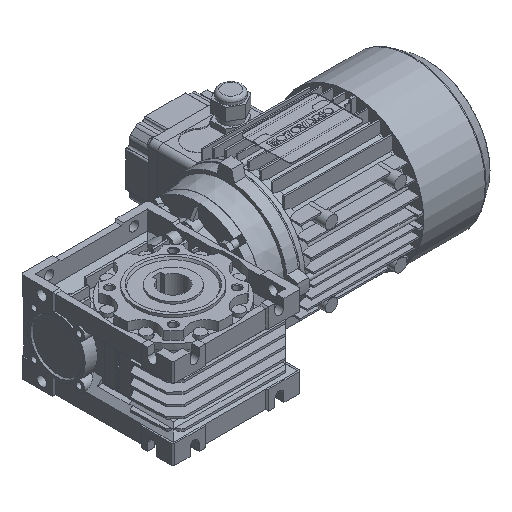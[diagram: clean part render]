
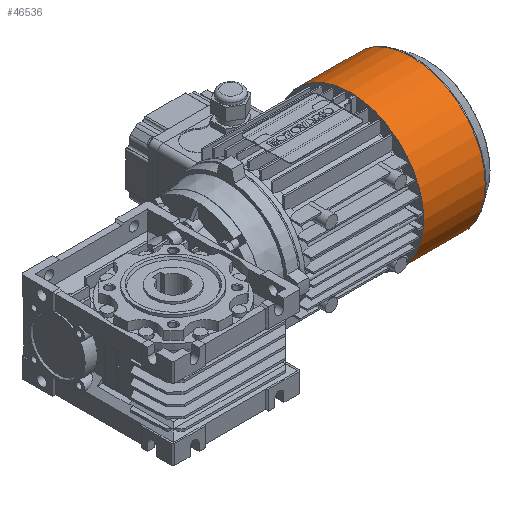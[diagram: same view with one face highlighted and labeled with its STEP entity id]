
A CAD part, isometric view. The second image highlights one B-rep face of the part: STEP entity #46536.
In plain terms, the highlighted cylindrical face has radius 69.45 mm (diameter 138.9 mm), a full revolution.
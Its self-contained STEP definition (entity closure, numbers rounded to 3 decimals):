
#17327=ORIENTED_EDGE('',*,*,#27963,.F.);
#17328=ORIENTED_EDGE('',*,*,#27962,.T.);
#27962=EDGE_CURVE('',#33848,#33848,#37696,.T.);
#27963=EDGE_CURVE('',#33849,#33849,#37697,.T.);
#33848=VERTEX_POINT('',#80548);
#33849=VERTEX_POINT('',#80551);
#37696=CIRCLE('',#57159,69.45);
#37697=CIRCLE('',#57161,69.45);
#39903=EDGE_LOOP('',(#17327));
#39904=EDGE_LOOP('',(#17328));
#42780=FACE_BOUND('',#39903,.T.);
#42781=FACE_BOUND('',#39904,.T.);
#45043=CYLINDRICAL_SURFACE('',#57160,69.45);
#46536=ADVANCED_FACE('',(#42780,#42781),#45043,.T.);
#57159=AXIS2_PLACEMENT_3D('',#80547,#66678,#66679);
#57160=AXIS2_PLACEMENT_3D('',#80549,#66680,#66681);
#57161=AXIS2_PLACEMENT_3D('',#80550,#66682,#66683);
#66678=DIRECTION('',(1.,0.,0.));
#66679=DIRECTION('',(0.,0.,-1.));
#66680=DIRECTION('',(1.,0.,0.));
#66681=DIRECTION('',(0.,0.,-1.));
#66682=DIRECTION('',(1.,0.,0.));
#66683=DIRECTION('',(0.,0.,-1.));
#80547=CARTESIAN_POINT('',(0.,0.,0.));
#80548=CARTESIAN_POINT('',(0.,0.,-69.45));
#80549=CARTESIAN_POINT('',(72.,0.,0.));
#80550=CARTESIAN_POINT('',(57.873,0.,0.));
#80551=CARTESIAN_POINT('',(57.873,0.,-69.45));
